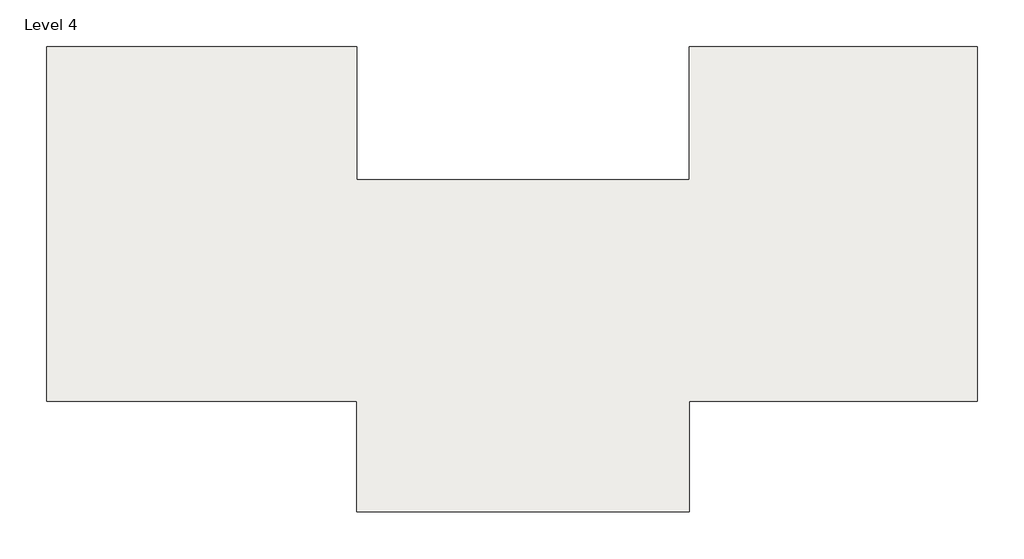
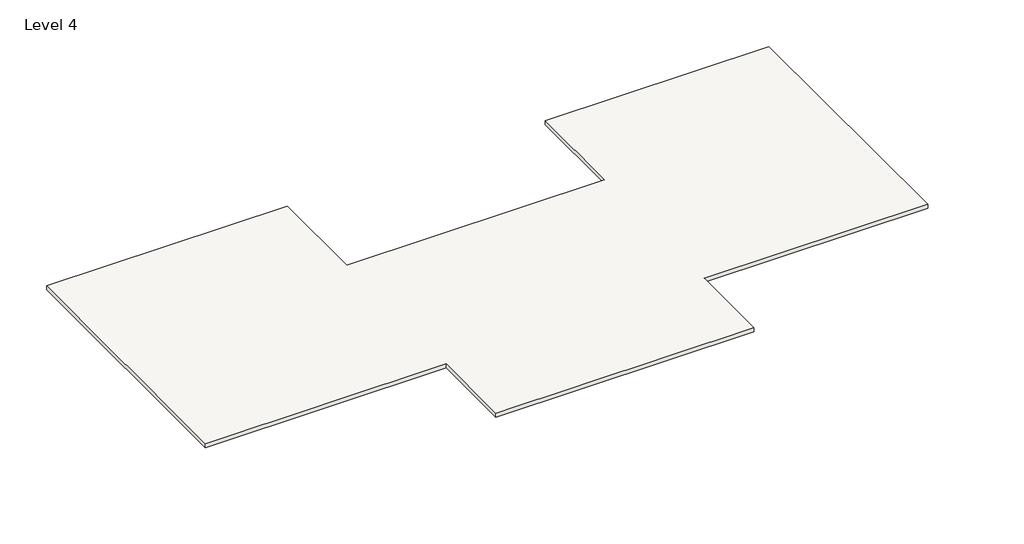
# One storey: 1 slab.
"""IFC4 building model written with IfcOpenShell, lengths in millimetres."""

from ifc_helpers import new_model, si_unit, frame, origin, place, context, project, spatial, polyline, outline, extrude, element, save

model = new_model("IFC4")

# Units and contexts
model_context = context("Model", 3, world=origin())
ifc_project = project(units=[si_unit("LENGTHUNIT", "METRE", prefix="MILLI")], contexts=[model_context])

# Site, building, storey
site = spatial("IfcSite", under=ifc_project)
building = spatial("IfcBuilding", under=site)
storey = spatial("IfcBuildingStorey", under=building, Name="Level 4", Elevation=10210.8)

# Slab
placement = place(None, origin())
element("IfcSlab", 1, ObjectType="Generic - 12\"", at=placement, inside=storey, context=model_context, shape_type="SweptSolid", body=[
    extrude(outline(polyline([(2876.9647544, 10145.5659381), (2876.9647544, 2830.3659381), (21164.9647544, 2830.3659381), (21164.9647544, 10145.5659381), (37014.5647544, 10145.5659381), (37014.5647544, -9361.6340619), (21164.9647544, -9361.6340619), (21164.9647544, -15457.6340619), (2876.9647544, -15457.6340619), (2876.9647544, -9361.6340619), (-14191.8352456, -9361.6340619), (-14191.8352456, 10145.5659381), (2876.9647544, 10145.5659381)])), frame((0.0, 0.0, 9906.0), z_axis=(0.0, 0.0, 1.0), x_axis=(1.0, 0.0, 0.0)), (0.0, 0.0, 1.0), 304.8),
])

save(model, "model.ifc")
